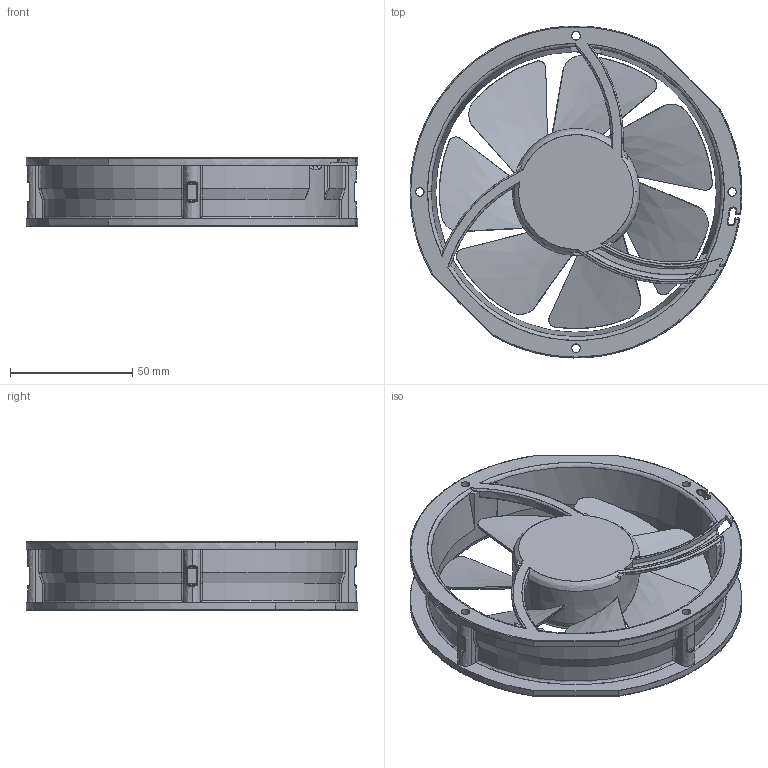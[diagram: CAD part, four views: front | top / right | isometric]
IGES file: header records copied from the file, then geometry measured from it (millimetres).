
Start section: SolidWorks IGES file using analytic representation for surfaces
Global section: file name: C:\Users\nishizawa-toshiya\Documents\My document\3D検討\提出用3Dデータ\φ136x28RFタイプ\13628RF.IGS; native system: SolidWorks 2017; preprocessor: SolidWorks 2017; author: Nishizawa-Toshiya; date: 170725.190037; units: millimetre
Bounding box: 136 x 135.98 x 28 mm (x, y, z)
Surface area: 59486.6 mm2 (no closed solid volume)
Topology: 0 solids, 0 shells, 390 faces, 4642 edges, 4634 vertices
Faces by surface type: bspline 237, revolution 153
